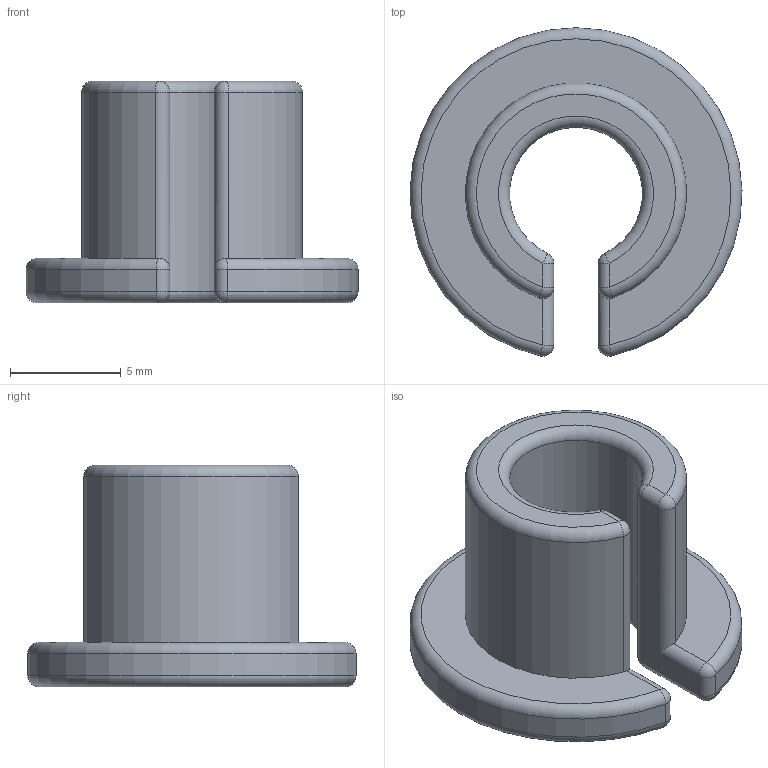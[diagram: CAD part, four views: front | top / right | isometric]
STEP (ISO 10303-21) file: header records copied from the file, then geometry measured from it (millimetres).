
FILE_DESCRIPTION (( 'STEP AP214' ), '1' );
FILE_NAME ('3799.STEP', '2024-06-17T20:24:25', ( '' ), ( '' ), 'SwSTEP 2.0', 'SolidWorks 2022', '' );
FILE_SCHEMA (( 'AUTOMOTIVE_DESIGN' ));
Length unit declared in the file: millimetre
Products named in the file (1): 3799
Bounding box: 15 x 14.84 x 10 mm (x, y, z)
Volume: 637.1 mm3; surface area: 777.5 mm2
Topology: 1 solids, 1 shells, 35 faces, 81 edges, 42 vertices
Faces by surface type: cylinder 15, sphere 10, plane 5, torus 5
Entity records: 920 total; most frequent: DIRECTION 182, CARTESIAN_POINT 147, ORIENTED_EDGE 138, AXIS2_PLACEMENT_3D 79, EDGE_CURVE 69, CIRCLE 43, VERTEX_POINT 36, FACE_OUTER_BOUND 35
